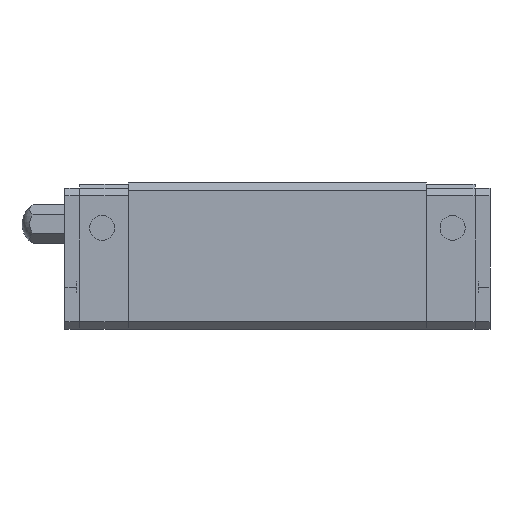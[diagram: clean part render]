
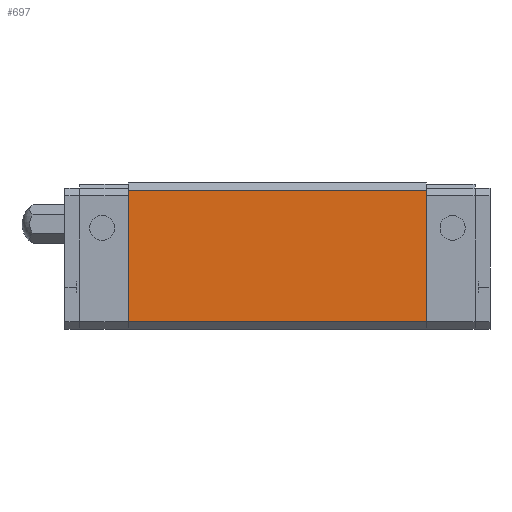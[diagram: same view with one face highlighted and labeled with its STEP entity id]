
A CAD part, front view. The second image highlights one B-rep face of the part: STEP entity #697.
In plain terms, the highlighted planar face has unit normal (0, -1, 0).
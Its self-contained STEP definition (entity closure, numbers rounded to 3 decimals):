
#636=CARTESIAN_POINT('POINT40',(48.3,-17.,
   1.));
#637=VERTEX_POINT('VERTEX40',#636);
#644=CARTESIAN_POINT('POINT41',(8.5,-17.,1.
   ));
#645=VERTEX_POINT('VERTEX41',#644);
#646=CARTESIAN_POINT('POS65',(8.5,-17.,1.))
   ;
#647=DIRECTION('DIR98',(1.,0.,0.));
#648=VECTOR('VEC32',#647,1.);
#649=LINE('STRAIGHT32',#646,#648);
#650=EDGE_CURVE('EDGE64',#645,#637,#649,.T.);
#667=CARTESIAN_POINT('POINT42',(48.3,-17.,18.5));
#668=VERTEX_POINT('VERTEX42',#667);
#669=CARTESIAN_POINT('POS68',(48.3,-17.,1.)
   );
#670=DIRECTION('DIR102',(0.,0.,1.));
#671=VECTOR('VEC34',#670,1.);
#672=LINE('STRAIGHT34',#669,#671);
#673=EDGE_CURVE('EDGE66',#637,#668,#672,.T.);
#674=ORIENTED_EDGE('COEDGE119',*,*,#673,.T.);
#675=CARTESIAN_POINT('POINT43',(8.5,-17.,18.5));
#676=VERTEX_POINT('VERTEX43',#675);
#677=CARTESIAN_POINT('POS69',(8.5,-17.,18.5));
#678=DIRECTION('DIR103',(1.,0.,0.));
#679=VECTOR('VEC35',#678,1.);
#680=LINE('STRAIGHT35',#677,#679);
#681=EDGE_CURVE('EDGE67',#676,#668,#680,.T.);
#682=ORIENTED_EDGE('COEDGE120',*,*,#681,.F.);
#683=CARTESIAN_POINT('POS70',(8.5,-17.,1.))
   ;
#684=DIRECTION('DIR104',(0.,0.,1.));
#685=VECTOR('VEC36',#684,1.);
#686=LINE('STRAIGHT36',#683,#685);
#687=EDGE_CURVE('EDGE68',#645,#676,#686,.T.);
#688=ORIENTED_EDGE('COEDGE121',*,*,#687,.F.);
#689=ORIENTED_EDGE('COEDGE122',*,*,#650,.T.);
#690=EDGE_LOOP('NONE',(#674,#682,#688,#689));
#691=FACE_BOUND('LOOP1',#690,.T.);
#692=CARTESIAN_POINT('POS71',(8.5,-17.,1.))
   ;
#693=DIRECTION('DIR105',(0.,-1.,0.));
#694=DIRECTION('DIR106',(1.,0.,0.));
#695=AXIS2_PLACEMENT_3D('AXIS35',#692,#693,#694);
#696=PLANE('PLANE6',#695);
#697=ADVANCED_FACE('FACE32',(#691),#696,.T.);
